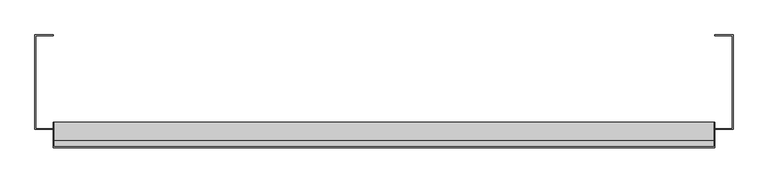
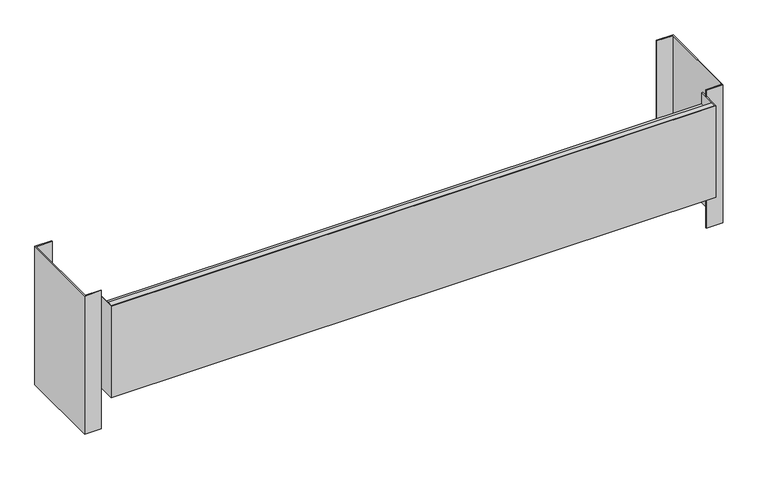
"""IFC4 building model written with IfcOpenShell, lengths in millimetres: furniture geometry."""

from ifc_helpers import new_model, si_unit, frame, origin, place, context, project, spatial, polyline, outline, extrude, source, transform, mapped, element, save


def furniture_1dd29d47(model_context):
    return source(origin(), model_context, "Body", "SweptSolid", [
        extrude(outline(polyline([(-609.6, -126.20625), (-577.8500008, -126.20625), (-577.8500008, -127.79375), (-608.0125, -127.79375), (-608.0125, -289.7187621), (-577.8500008, -289.7187621), (-577.8500008, -291.3062621), (-609.6, -291.3062621), (-609.6, -126.20625)])), frame((0.0, 0.0, 601.49232), z_axis=(0.0, 0.0, 1.0), x_axis=(1.0, 0.0, 0.0)), (0.0, 0.0, 1.0), 279.4),
        extrude(outline(polyline([(577.8500121, -126.20625), (609.6, -126.20625), (609.6, -291.3062621), (577.8500121, -291.3062621), (577.8500121, -289.7187621), (608.0125, -289.7187621), (608.0125, -127.79375), (577.8500121, -127.79375), (577.8500121, -126.20625)])), frame((0.0, 0.0, 601.49232), z_axis=(0.0, 0.0, 1.0), x_axis=(1.0, 0.0, 0.0)), (0.0, 0.0, 1.0), 279.4),
        extrude(outline(polyline([(577.8500121, -278.6062561), (577.8500121, -323.05625), (-577.8500008, -323.05625), (-577.8500008, -278.6062561), (-576.2625008, -278.6062561), (-576.2625008, -321.46875), (576.2625121, -321.46875), (576.2625121, -278.6062561), (577.8500121, -278.6062561)])), frame((0.0, 0.0, 684.0423079), z_axis=(0.0, 0.0, 1.0), x_axis=(1.0, 0.0, 0.0)), (0.0, 0.0, 1.0), 184.1500242),
        extrude(outline(polyline([(576.2625121, -311.1182614), (576.2625121, -321.46875), (-576.2625008, -321.46875), (-576.2625008, -311.1182614), (576.2625121, -311.1182614)])), frame((0.0, 0.0, 858.6673321), z_axis=(0.0, 0.0, 1.0), x_axis=(1.0, 0.0, 0.0)), (0.0, 0.0, 1.0), 9.525),
        extrude(outline(polyline([(576.2625121, -278.6062561), (576.2625121, -321.46875), (-576.2625008, -321.46875), (-576.2625008, -278.6062561), (576.2625121, -278.6062561)])), frame((0.0, 0.0, 684.0423079), z_axis=(0.0, 0.0, 1.0), x_axis=(1.0, 0.0, 0.0)), (0.0, 0.0, 1.0), 161.9250363),
    ])


if __name__ == "__main__":
    model = new_model("IFC4")
    model_context = context("Model", 3, world=origin())
    ifc_project = project(units=[si_unit("LENGTHUNIT", "METRE", prefix="MILLI")], contexts=[model_context])
    site = spatial("IfcSite", under=ifc_project)
    building = spatial("IfcBuilding", under=site)
    placement = place(None, origin())
    furniture_shape = furniture_1dd29d47(model_context)
    element("IfcFurniture", 1, ObjectType="HermanMiller_CoStruc_C2192_CFrameSupport : 11\"H x 24\"D x 48\"W", at=placement, inside=building, context=model_context, shape_type="MappedRepresentation", body=[
        mapped(furniture_shape, transform((0.0, 0.0, 0.0), x_axis=(1.0, 0.0, 0.0), y_axis=(0.0, 1.0, 0.0), z_axis=(0.0, 0.0, 1.0))),
    ])
    save(model, "model.ifc")
